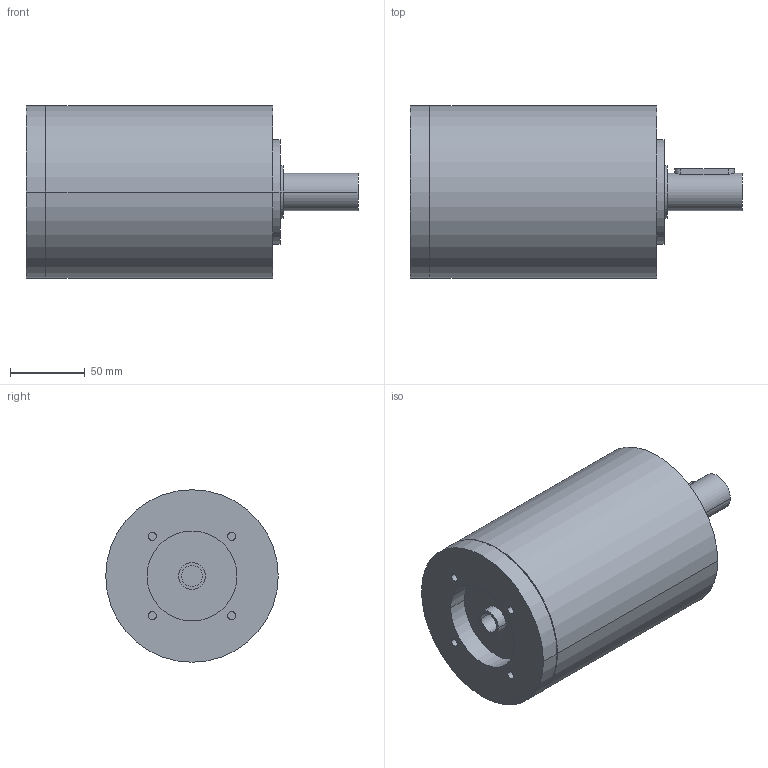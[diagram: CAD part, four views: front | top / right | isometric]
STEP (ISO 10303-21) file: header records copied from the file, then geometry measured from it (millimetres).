
FILE_DESCRIPTION(('CoCreate Modeling STEP Export'),'2;1');
FILE_NAME('GPR125_ig-9-12-16-20-28-35_25_B14_14_P02.stp','2014-08-26T14:09:34',(''),(''),'CoCreate Modeling STEP processor for AP214 (Solid Model)','CoCreate Modeling 16.00C 25-Feb-2009 (C) Parametric Technology GmbH','');
FILE_SCHEMA(('AUTOMOTIVE_DESIGN { 1 0 10303 214 1 1 1 1 }'));
Length unit declared in the file: millimetre
Products named in the file (2): GPR125_ig-9-12-16-20-28-35_25_B14_14_P02
Assembly tree (1 placements, depth 2):
  GPR125_ig-9-12-16-20-28-35_25_B14_14_P02
    GPR125_ig-9-12-16-20-28-35_25_B14_14_P02
Bounding box: 221.4 x 115 x 115 mm (x, y, z)
Volume: 1707706.1 mm3; surface area: 94016.7 mm2
Topology: 1 solids, 1 shells, 72 faces, 173 edges, 121 vertices
Faces by surface type: cylinder 44, plane 24, cone 4
Entity records: 1805 total; most frequent: ORIENTED_EDGE 342, CARTESIAN_POINT 336, DIRECTION 240, EDGE_CURVE 171, VERTEX_POINT 121, AXIS2_PLACEMENT_3D 93, EDGE_LOOP 92, FACE_OUTER_BOUND 72
